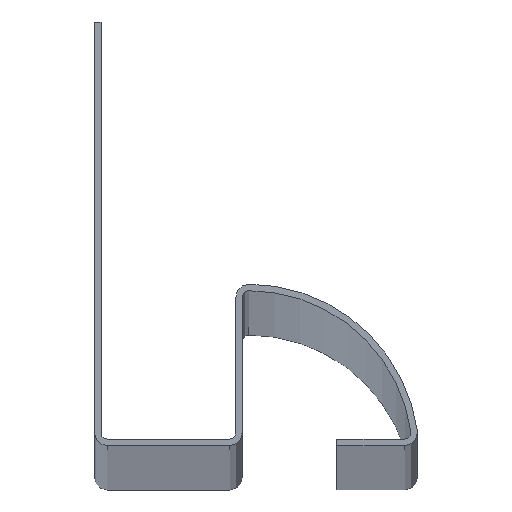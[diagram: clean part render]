
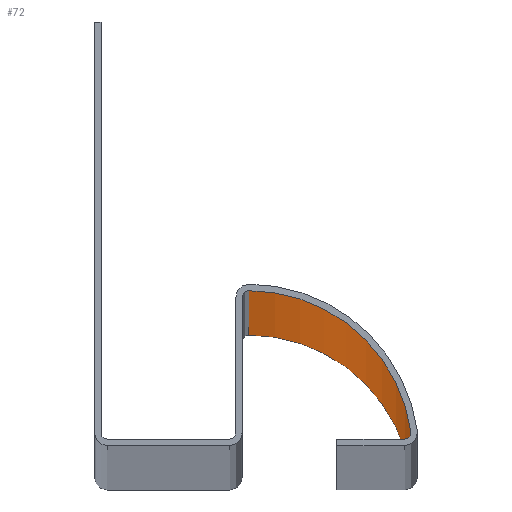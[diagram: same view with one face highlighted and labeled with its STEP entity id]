
A CAD part, top view. The second image highlights one B-rep face of the part: STEP entity #72.
In plain terms, the highlighted cylindrical face has radius 12.887 mm (diameter 25.774 mm), a partial arc.
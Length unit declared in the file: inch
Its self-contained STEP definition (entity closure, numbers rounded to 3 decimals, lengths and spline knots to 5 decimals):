
#62 = CARTESIAN_POINT ( 'NONE',  ( 0.4775, 0.48, -78.74016 ) ) ;
#72 = ADVANCED_FACE ( 'NONE', ( #106 ), #565, .F. ) ;
#89 = AXIS2_PLACEMENT_3D ( 'NONE', #788, #455, #280 ) ;
#95 = CARTESIAN_POINT ( 'NONE',  ( 0.4775, 0.48, 0. ) ) ;
#106 = FACE_OUTER_BOUND ( 'NONE', #573, .T. ) ;
#115 = LINE ( 'NONE', #228, #663 ) ;
#125 = EDGE_CURVE ( 'NONE', #623, #764, #488, .T. ) ;
#174 = DIRECTION ( 'NONE',  ( 0., 0., 1. ) ) ;
#189 = ORIENTED_EDGE ( 'NONE', *, *, #356, .F. ) ;
#202 = ORIENTED_EDGE ( 'NONE', *, *, #320, .T. ) ;
#228 = CARTESIAN_POINT ( 'NONE',  ( 0.98, 0.04276, -78.74016 ) ) ;
#259 = DIRECTION ( 'NONE',  ( 0., 0., -1. ) ) ;
#271 = DIRECTION ( 'NONE',  ( 0., 0., 1. ) ) ;
#273 = CARTESIAN_POINT ( 'NONE',  ( 0.4775, 0.48, -78.74016 ) ) ;
#280 = DIRECTION ( 'NONE',  ( -1., 0., 0. ) ) ;
#286 = CARTESIAN_POINT ( 'NONE',  ( 0.98, 0.04276, 0. ) ) ;
#320 = EDGE_CURVE ( 'NONE', #764, #486, #115, .T. ) ;
#321 = CARTESIAN_POINT ( 'NONE',  ( 0.4775, -0.02737, -78.74016 ) ) ;
#356 = EDGE_CURVE ( 'NONE', #718, #486, #892, .T. ) ;
#380 = DIRECTION ( 'NONE',  ( 1., 0., 0. ) ) ;
#397 = LINE ( 'NONE', #273, #841 ) ;
#425 = CARTESIAN_POINT ( 'NONE',  ( 0.98, 0.04276, -78.74016 ) ) ;
#455 = DIRECTION ( 'NONE',  ( 0., 0., -1. ) ) ;
#486 = VERTEX_POINT ( 'NONE', #286 ) ;
#488 = CIRCLE ( 'NONE', #834, 0.50737 ) ;
#532 = DIRECTION ( 'NONE',  ( -1., 0., 0. ) ) ;
#565 = CYLINDRICAL_SURFACE ( 'NONE', #640, 0.50737 ) ;
#573 = EDGE_LOOP ( 'NONE', ( #189, #858, #741, #202 ) ) ;
#623 = VERTEX_POINT ( 'NONE', #62 ) ;
#633 = EDGE_CURVE ( 'NONE', #623, #718, #397, .T. ) ;
#640 = AXIS2_PLACEMENT_3D ( 'NONE', #819, #736, #380 ) ;
#663 = VECTOR ( 'NONE', #174, 39.37008 ) ;
#718 = VERTEX_POINT ( 'NONE', #95 ) ;
#736 = DIRECTION ( 'NONE',  ( 0., 0., 1. ) ) ;
#741 = ORIENTED_EDGE ( 'NONE', *, *, #125, .T. ) ;
#764 = VERTEX_POINT ( 'NONE', #425 ) ;
#788 = CARTESIAN_POINT ( 'NONE',  ( 0.4775, -0.02737, 0. ) ) ;
#819 = CARTESIAN_POINT ( 'NONE',  ( 0.4775, -0.02737, -78.74016 ) ) ;
#834 = AXIS2_PLACEMENT_3D ( 'NONE', #321, #259, #532 ) ;
#841 = VECTOR ( 'NONE', #271, 39.37008 ) ;
#858 = ORIENTED_EDGE ( 'NONE', *, *, #633, .F. ) ;
#892 = CIRCLE ( 'NONE', #89, 0.50737 ) ;
